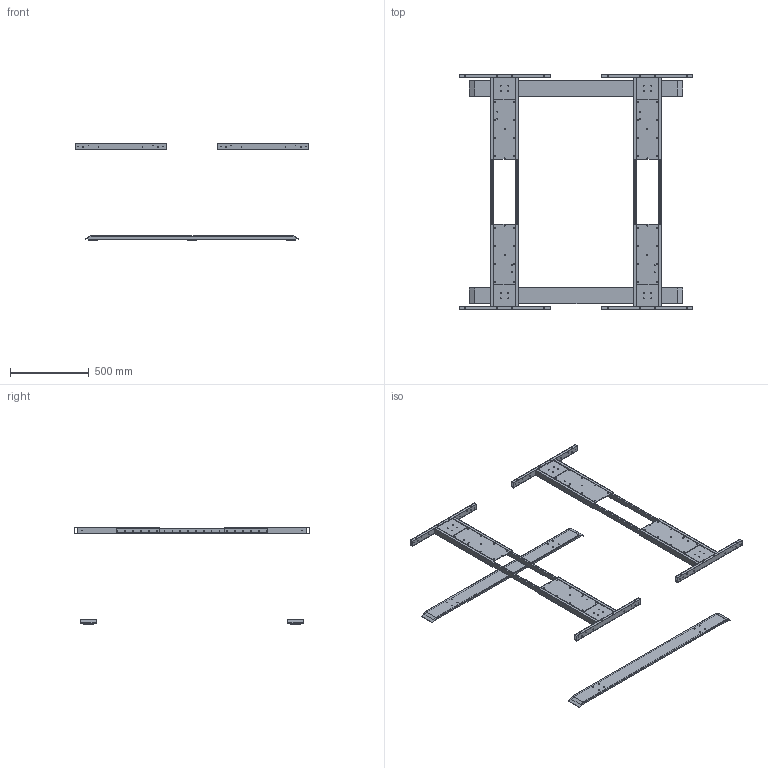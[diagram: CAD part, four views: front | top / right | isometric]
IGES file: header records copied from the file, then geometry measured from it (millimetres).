
Start section: Data from Parasolid IGES Translator 17.0.49, Copyright(c) 2006 Siemens P LM Software. All Rights Reserved.
Global section: file name: 9243051.igs; native system: By Siemens PLM Incorporated; preprocessor: XPlus GENERIC/IGES 17.0.49; author: Noname; organization: Noname; date: 20180403.095458; units: millimetre
Bounding box: 1490 x 1500 x 620.5 mm (x, y, z)
Surface area: 3392259.4 mm2 (no closed solid volume)
Topology: 0 solids, 0 shells, 544 faces, 3024 edges, 2432 vertices
Faces by surface type: revolution 308, extrusion 236
